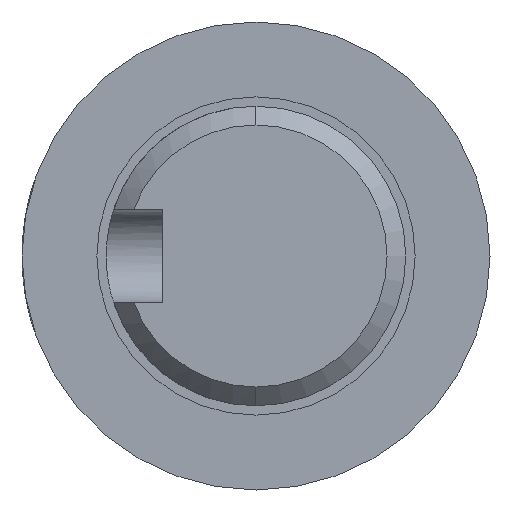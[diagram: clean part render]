
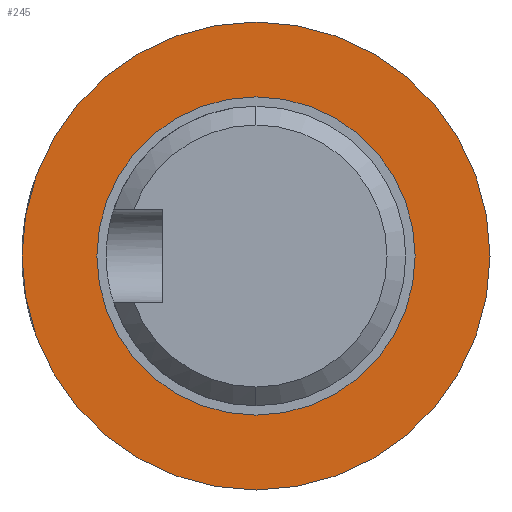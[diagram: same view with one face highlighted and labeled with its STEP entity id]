
A CAD part, left-side view. The second image highlights one B-rep face of the part: STEP entity #245.
In plain terms, the highlighted planar face has unit normal (-1, 0, 0).
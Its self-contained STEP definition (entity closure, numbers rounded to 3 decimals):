
#125 = EDGE_CURVE ( 'NONE', #128, #224, #300, .T. ) ;
#128 = VERTEX_POINT ( 'NONE', #295 ) ;
#132 = VERTEX_POINT ( 'NONE', #375 ) ;
#142 = EDGE_CURVE ( 'NONE', #148, #132, #525, .T. ) ;
#148 = VERTEX_POINT ( 'NONE', #509 ) ;
#179 = EDGE_LOOP ( 'NONE', ( #180, #248 ) ) ;
#180 = ORIENTED_EDGE ( 'NONE', *, *, #142, .F. ) ;
#224 = VERTEX_POINT ( 'NONE', #627 ) ;
#233 = EDGE_LOOP ( 'NONE', ( #247, #242 ) ) ;
#240 = EDGE_CURVE ( 'NONE', #132, #148, #570, .T. ) ;
#242 = ORIENTED_EDGE ( 'NONE', *, *, #246, .T. ) ;
#245 = ADVANCED_FACE ( 'NONE', ( #547, #546 ), #568, .T. ) ;
#246 = EDGE_CURVE ( 'NONE', #224, #128, #549, .T. ) ;
#247 = ORIENTED_EDGE ( 'NONE', *, *, #125, .T. ) ;
#248 = ORIENTED_EDGE ( 'NONE', *, *, #240, .F. ) ;
#292 = DIRECTION ( 'NONE',  ( 0., 0., -1. ) ) ;
#293 = DIRECTION ( 'NONE',  ( 1., 0., 0. ) ) ;
#294 = CARTESIAN_POINT ( 'NONE',  ( 62., 0., 0. ) ) ;
#295 = CARTESIAN_POINT ( 'NONE',  ( 62., 0., -8.5 ) ) ;
#300 = CIRCLE ( 'NONE', #399, 8.5 ) ;
#375 = CARTESIAN_POINT ( 'NONE',  ( 62., 0., 12.5 ) ) ;
#399 = AXIS2_PLACEMENT_3D ( 'NONE', #294, #293, #292 ) ;
#509 = CARTESIAN_POINT ( 'NONE',  ( 62., 0., -12.5 ) ) ;
#510 = DIRECTION ( 'NONE',  ( 0., 0., -1. ) ) ;
#511 = DIRECTION ( 'NONE',  ( 1., 0., 0. ) ) ;
#512 = AXIS2_PLACEMENT_3D ( 'NONE', #522, #511, #510 ) ;
#522 = CARTESIAN_POINT ( 'NONE',  ( 62., 0., 0. ) ) ;
#525 = CIRCLE ( 'NONE', #512, 12.5 ) ;
#538 = DIRECTION ( 'NONE',  ( 0., 0., -1. ) ) ;
#539 = AXIS2_PLACEMENT_3D ( 'NONE', #551, #548, #538 ) ;
#541 = DIRECTION ( 'NONE',  ( 0., 0., 1. ) ) ;
#542 = DIRECTION ( 'NONE',  ( -1., 0., 0. ) ) ;
#543 = CARTESIAN_POINT ( 'NONE',  ( 62., 12.5, 0. ) ) ;
#546 = FACE_OUTER_BOUND ( 'NONE', #179, .T. ) ;
#547 = FACE_BOUND ( 'NONE', #233, .T. ) ;
#548 = DIRECTION ( 'NONE',  ( 1., 0., 0. ) ) ;
#549 = CIRCLE ( 'NONE', #539, 8.5 ) ;
#551 = CARTESIAN_POINT ( 'NONE',  ( 62., 0., 0. ) ) ;
#552 = DIRECTION ( 'NONE',  ( 0., 0., -1. ) ) ;
#553 = DIRECTION ( 'NONE',  ( 1., 0., 0. ) ) ;
#554 = CARTESIAN_POINT ( 'NONE',  ( 62., 0., 0. ) ) ;
#557 = AXIS2_PLACEMENT_3D ( 'NONE', #543, #542, #541 ) ;
#558 = AXIS2_PLACEMENT_3D ( 'NONE', #554, #553, #552 ) ;
#568 = PLANE ( 'NONE',  #557 ) ;
#570 = CIRCLE ( 'NONE', #558, 12.5 ) ;
#627 = CARTESIAN_POINT ( 'NONE',  ( 62., 0., 8.5 ) ) ;
